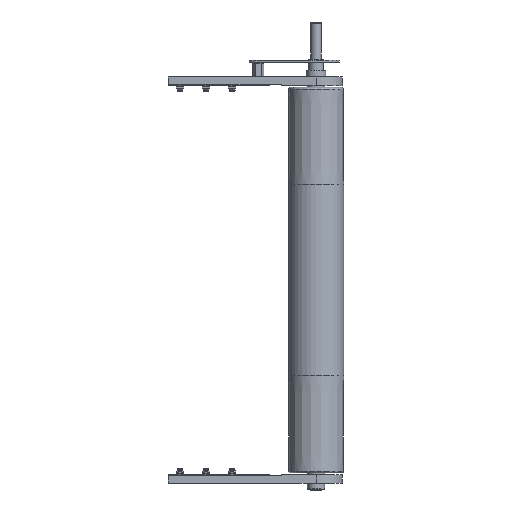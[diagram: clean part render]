
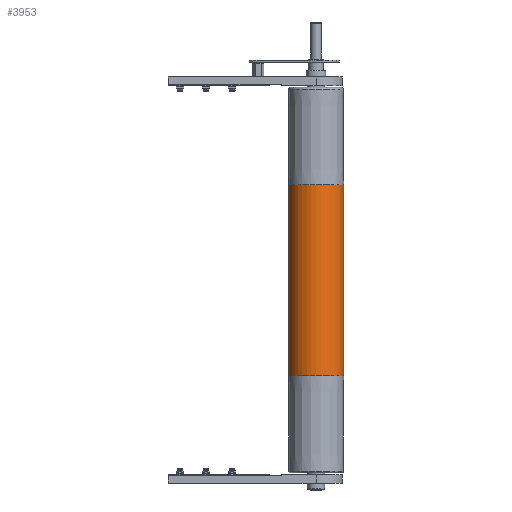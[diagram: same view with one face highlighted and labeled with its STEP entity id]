
A CAD part, front view. The second image highlights one B-rep face of the part: STEP entity #3953.
In plain terms, the highlighted cylindrical face has radius 47.5 mm (diameter 95 mm), a partial arc.
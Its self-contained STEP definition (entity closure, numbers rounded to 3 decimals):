
#895 = DIRECTION ( 'NONE',  ( -1., 0., 0. ) ) ;
#1001 = LINE ( 'NONE', #10885, #10068 ) ;
#1094 = CARTESIAN_POINT ( 'NONE',  ( -165., 0., -47.5 ) ) ;
#1441 = CARTESIAN_POINT ( 'NONE',  ( -165., 0., 0. ) ) ;
#2978 = VERTEX_POINT ( 'NONE', #17409 ) ;
#3136 = DIRECTION ( 'NONE',  ( 0., 0., -1. ) ) ;
#3279 = DIRECTION ( 'NONE',  ( 0., 0., 1. ) ) ;
#3590 = ORIENTED_EDGE ( 'NONE', *, *, #3879, .F. ) ;
#3879 = EDGE_CURVE ( 'NONE', #19985, #13892, #7993, .T. ) ;
#3953 = ADVANCED_FACE ( 'NONE', ( #6386 ), #10394, .T. ) ;
#4055 = ORIENTED_EDGE ( 'NONE', *, *, #5524, .T. ) ;
#4448 = AXIS2_PLACEMENT_3D ( 'NONE', #11491, #16891, #3279 ) ;
#4673 = CIRCLE ( 'NONE', #7785, 47.5 ) ;
#5524 = EDGE_CURVE ( 'NONE', #2978, #11502, #1001, .T. ) ;
#6386 = FACE_OUTER_BOUND ( 'NONE', #10272, .T. ) ;
#6845 = AXIS2_PLACEMENT_3D ( 'NONE', #1441, #13359, #3136 ) ;
#7049 = EDGE_CURVE ( 'NONE', #2978, #19985, #4673, .T. ) ;
#7785 = AXIS2_PLACEMENT_3D ( 'NONE', #9322, #21222, #11059 ) ;
#7993 = LINE ( 'NONE', #15731, #12542 ) ;
#9322 = CARTESIAN_POINT ( 'NONE',  ( 165., 0., 0. ) ) ;
#9898 = EDGE_CURVE ( 'NONE', #11502, #13892, #10630, .T. ) ;
#10068 = VECTOR ( 'NONE', #895, 1000. ) ;
#10272 = EDGE_LOOP ( 'NONE', ( #3590, #17497, #4055, #17201 ) ) ;
#10394 = CYLINDRICAL_SURFACE ( 'NONE', #4448, 47.5 ) ;
#10630 = CIRCLE ( 'NONE', #6845, 47.5 ) ;
#10885 = CARTESIAN_POINT ( 'NONE',  ( 330., 0., 47.5 ) ) ;
#11059 = DIRECTION ( 'NONE',  ( 0., 0., -1. ) ) ;
#11491 = CARTESIAN_POINT ( 'NONE',  ( 330., 0., 0. ) ) ;
#11502 = VERTEX_POINT ( 'NONE', #13151 ) ;
#12542 = VECTOR ( 'NONE', #15268, 1000. ) ;
#12657 = CARTESIAN_POINT ( 'NONE',  ( 165., 0., -47.5 ) ) ;
#13151 = CARTESIAN_POINT ( 'NONE',  ( -165., 0., 47.5 ) ) ;
#13359 = DIRECTION ( 'NONE',  ( 1., 0., 0. ) ) ;
#13892 = VERTEX_POINT ( 'NONE', #1094 ) ;
#15268 = DIRECTION ( 'NONE',  ( -1., 0., 0. ) ) ;
#15731 = CARTESIAN_POINT ( 'NONE',  ( 330., 0., -47.5 ) ) ;
#16891 = DIRECTION ( 'NONE',  ( -1., 0., 0. ) ) ;
#17201 = ORIENTED_EDGE ( 'NONE', *, *, #9898, .T. ) ;
#17409 = CARTESIAN_POINT ( 'NONE',  ( 165., 0., 47.5 ) ) ;
#17497 = ORIENTED_EDGE ( 'NONE', *, *, #7049, .F. ) ;
#19985 = VERTEX_POINT ( 'NONE', #12657 ) ;
#21222 = DIRECTION ( 'NONE',  ( 1., 0., 0. ) ) ;
